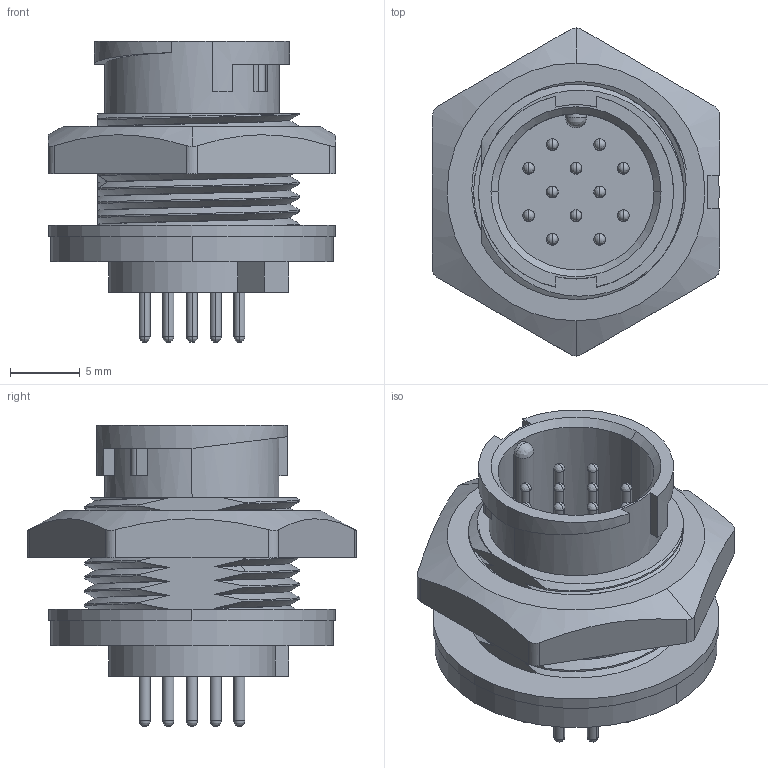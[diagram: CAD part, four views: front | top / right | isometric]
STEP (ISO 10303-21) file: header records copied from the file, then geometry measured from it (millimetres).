
FILE_DESCRIPTION (( 'STEP AP203' ), '1' );
FILE_NAME ('870-012-113R001.STEP', '2024-06-14T18:55:16', ( '' ), ( '' ), 'SwSTEP 2.0', 'SolidWorks 2020', '' );
FILE_SCHEMA (( 'CONFIG_CONTROL_DESIGN' ));
Length unit declared in the file: millimetre
Products named in the file (1): 870-012-113R001
Bounding box: 20.6 x 23.54 x 21.6 mm (x, y, z)
Volume: 2655.7 mm3; surface area: 3901.5 mm2
Topology: 2 solids, 2 shells, 420 faces, 1046 edges, 586 vertices
Faces by surface type: cylinder 183, bspline 93, cone 77, plane 67
Entity records: 18309 total; most frequent: CARTESIAN_POINT 9302, ORIENTED_EDGE 1896, DIRECTION 1775, EDGE_CURVE 948, AXIS2_PLACEMENT_3D 747, VERTEX_POINT 586, EDGE_LOOP 476, ADVANCED_FACE 420
